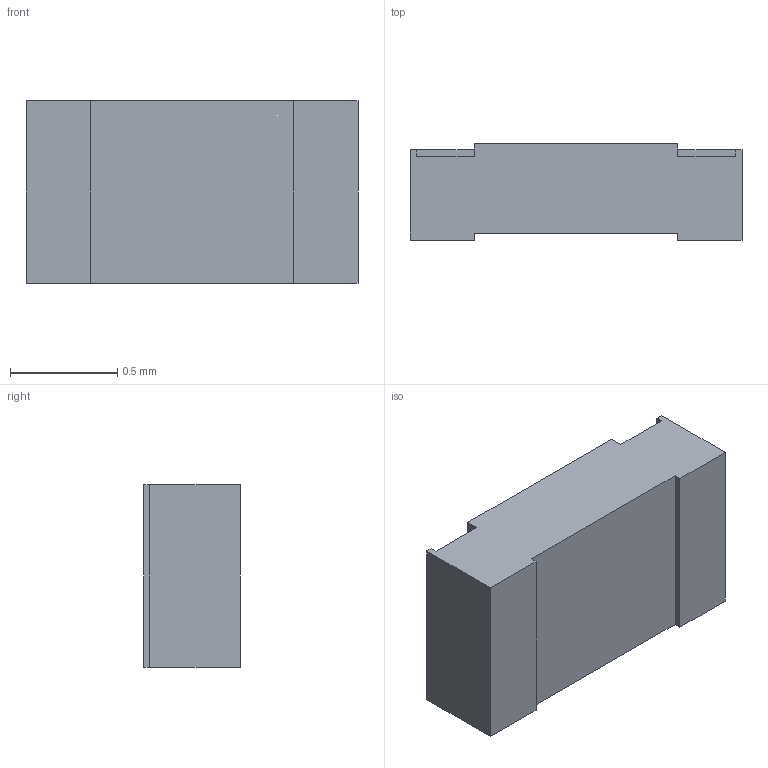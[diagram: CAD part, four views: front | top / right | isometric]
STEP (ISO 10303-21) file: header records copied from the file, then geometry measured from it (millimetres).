
FILE_DESCRIPTION(/* description */ (''),/* implementation_level */ '2;1');
FILE_NAME(/* name */ 'H:\Per\3 Modelle für Chris\D10 CRCW0603-TR e3.stp',/* time_stamp */ '2021-03-16T15:57:20+01:00',/* author */ ('rpetersen'),/* organization */ (''),/* preprocessor_version */ 'ST-DEVELOPER v17',/* originating_system */ 'Autodesk Inventor 2018',/* authorisation */ '');
FILE_SCHEMA (('AUTOMOTIVE_DESIGN { 1 0 10303 214 3 1 1 }'));
Length unit declared in the file: millimetre
Products named in the file (1): 4190
Bounding box: 1.55 x 0.45 x 0.85 mm (x, y, z)
Volume: 0.5 mm3; surface area: 4.8 mm2
Topology: 1 solids, 1 shells, 26 faces, 72 edges, 48 vertices
Faces by surface type: plane 26
Entity records: 855 total; most frequent: CARTESIAN_POINT 147, ORIENTED_EDGE 144, DIRECTION 126, LINE 72, VECTOR 72, EDGE_CURVE 72, VERTEX_POINT 48, AXIS2_PLACEMENT_3D 27
